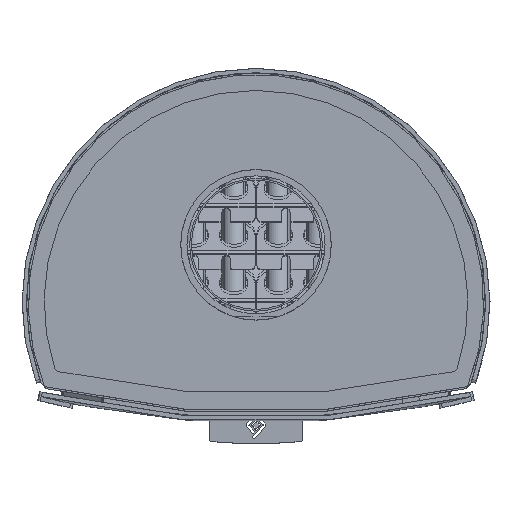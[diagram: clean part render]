
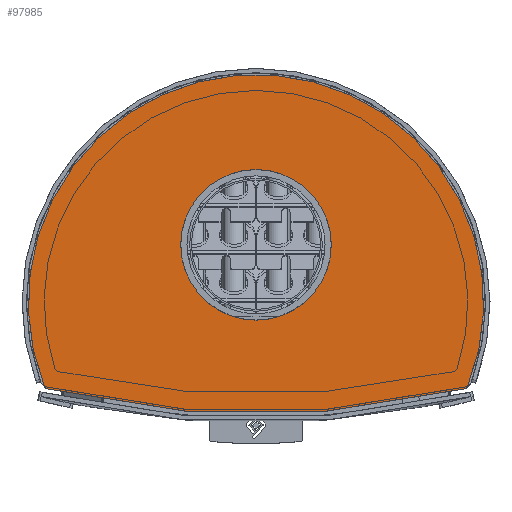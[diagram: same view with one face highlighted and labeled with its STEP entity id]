
A CAD part, front view. The second image highlights one B-rep face of the part: STEP entity #97985.
In plain terms, the highlighted planar face has unit normal (0, -1, 0) as drawn and (0, 0, 1) by its records, which use the part's own axes.
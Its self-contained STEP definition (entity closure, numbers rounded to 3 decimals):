
#1173 = CIRCLE ( 'NONE', #64733, 2.9 ) ;
#5880 = CIRCLE ( 'NONE', #27625, 2.9 ) ;
#8046 = CARTESIAN_POINT ( 'NONE',  ( 236.183, -159.805, 947. ) ) ;
#10502 = EDGE_CURVE ( 'NONE', #37429, #37429, #99439, .T. ) ;
#10603 = CARTESIAN_POINT ( 'NONE',  ( -238.874, -160.886, 947. ) ) ;
#15987 = DIRECTION ( 'NONE',  ( 0., 0., 1. ) ) ;
#19136 = PLANE ( 'NONE',  #24670 ) ;
#19420 = AXIS2_PLACEMENT_3D ( 'NONE', #84690, #72895, #32848 ) ;
#20160 = CIRCLE ( 'NONE', #87361, 999.9 ) ;
#20912 = CARTESIAN_POINT ( 'NONE',  ( 0., -85.1, 947. ) ) ;
#24670 = AXIS2_PLACEMENT_3D ( 'NONE', #55542, #81166, #97645 ) ;
#27543 = VERTEX_POINT ( 'NONE', #38551 ) ;
#27625 = AXIS2_PLACEMENT_3D ( 'NONE', #8046, #15987, #93978 ) ;
#27659 = FACE_BOUND ( 'NONE', #36348, .T. ) ;
#32848 = DIRECTION ( 'NONE',  ( 0., -1., 0. ) ) ;
#36348 = EDGE_LOOP ( 'NONE', ( #72890 ) ) ;
#37429 = VERTEX_POINT ( 'NONE', #20912 ) ;
#38551 = CARTESIAN_POINT ( 'NONE',  ( 236.87, -162.623, 947. ) ) ;
#39093 = ORIENTED_EDGE ( 'NONE', *, *, #46520, .T. ) ;
#41442 = ORIENTED_EDGE ( 'NONE', *, *, #96868, .T. ) ;
#46520 = EDGE_CURVE ( 'NONE', #82811, #27543, #20160, .T. ) ;
#55542 = CARTESIAN_POINT ( 'NONE',  ( 0., 371.908, 947. ) ) ;
#58524 = CARTESIAN_POINT ( 'NONE',  ( -236.183, -159.805, 947. ) ) ;
#64733 = AXIS2_PLACEMENT_3D ( 'NONE', #58524, #68184, #110859 ) ;
#68094 = EDGE_CURVE ( 'NONE', #27543, #92470, #5880, .T. ) ;
#68184 = DIRECTION ( 'NONE',  ( 0., 0., 1. ) ) ;
#72809 = CARTESIAN_POINT ( 'NONE',  ( 0., 808.816, 947. ) ) ;
#72890 = ORIENTED_EDGE ( 'NONE', *, *, #10502, .T. ) ;
#72895 = DIRECTION ( 'NONE',  ( 0., 0., -1. ) ) ;
#76732 = DIRECTION ( 'NONE',  ( 0., 0., 1. ) ) ;
#76919 = EDGE_LOOP ( 'NONE', ( #41442, #81559, #39093, #81688 ) ) ;
#79191 = CARTESIAN_POINT ( 'NONE',  ( 238.874, -160.886, 947. ) ) ;
#81166 = DIRECTION ( 'NONE',  ( 0., 0., 1. ) ) ;
#81559 = ORIENTED_EDGE ( 'NONE', *, *, #96845, .T. ) ;
#81688 = ORIENTED_EDGE ( 'NONE', *, *, #68094, .T. ) ;
#82811 = VERTEX_POINT ( 'NONE', #109350 ) ;
#84690 = CARTESIAN_POINT ( 'NONE',  ( 0., 0., 947. ) ) ;
#86610 = CIRCLE ( 'NONE', #88418, 257.4 ) ;
#87361 = AXIS2_PLACEMENT_3D ( 'NONE', #72809, #107518, #102329 ) ;
#88418 = AXIS2_PLACEMENT_3D ( 'NONE', #93240, #76732, #94331 ) ;
#90250 = VERTEX_POINT ( 'NONE', #10603 ) ;
#92470 = VERTEX_POINT ( 'NONE', #79191 ) ;
#93240 = CARTESIAN_POINT ( 'NONE',  ( 0., -65., 947. ) ) ;
#93978 = DIRECTION ( 'NONE',  ( 0., -1., 0. ) ) ;
#94331 = DIRECTION ( 'NONE',  ( 0., -1., 0. ) ) ;
#96512 = FACE_OUTER_BOUND ( 'NONE', #76919, .T. ) ;
#96845 = EDGE_CURVE ( 'NONE', #90250, #82811, #1173, .T. ) ;
#96868 = EDGE_CURVE ( 'NONE', #92470, #90250, #86610, .T. ) ;
#97645 = DIRECTION ( 'NONE',  ( 0., -1., 0. ) ) ;
#97985 = ADVANCED_FACE ( 'NONE', ( #96512, #27659 ), #19136, .T. ) ;
#99439 = CIRCLE ( 'NONE', #19420, 85.1 ) ;
#102329 = DIRECTION ( 'NONE',  ( 0., -1., 0. ) ) ;
#107518 = DIRECTION ( 'NONE',  ( 0., 0., 1. ) ) ;
#109350 = CARTESIAN_POINT ( 'NONE',  ( -236.87, -162.623, 947. ) ) ;
#110859 = DIRECTION ( 'NONE',  ( 0., -1., 0. ) ) ;
